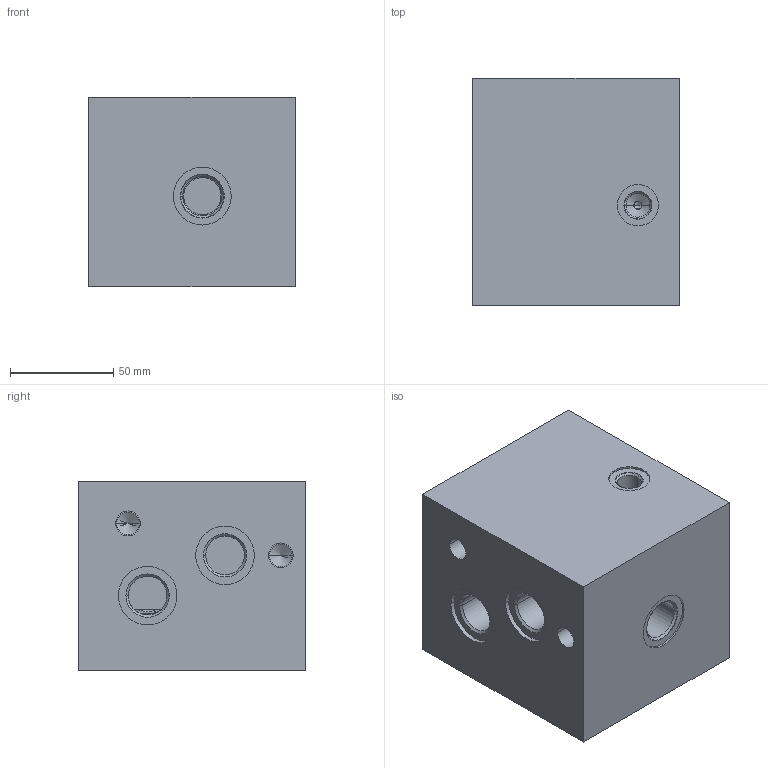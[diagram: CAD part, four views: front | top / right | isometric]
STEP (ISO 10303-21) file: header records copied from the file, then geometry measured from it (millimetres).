
FILE_DESCRIPTION((''),'2;1');
FILE_NAME('760_1040','2023-11-15T',('l.soukupova'),(''),'PRO/ENGINEER BY PARAMETRIC TECHNOLOGY CORPORATION, 2015440','PRO/ENGINEER BY PARAMETRIC TECHNOLOGY CORPORATION, 2015440','');
FILE_SCHEMA(('AUTOMOTIVE_DESIGN { 1 0 10303 214 1 1 1 1 }'));
Length unit declared in the file: millimetre
Products named in the file (1): 760_1040
Bounding box: 100 x 110 x 92 mm (x, y, z)
Volume: 911887.5 mm3; surface area: 96074.1 mm2
Topology: 1 solids, 14 shells, 165 faces, 507 edges, 387 vertices
Faces by surface type: cylinder 81, cone 48, plane 36
Entity records: 6298 total; most frequent: CARTESIAN_POINT 1419, DIRECTION 1012, ORIENTED_EDGE 758, EDGE_CURVE 405, AXIS2_PLACEMENT_3D 387, VERTEX_POINT 269, VECTOR 238, LINE 238
